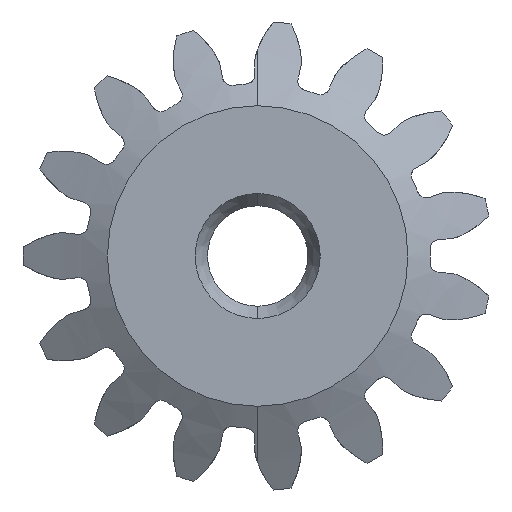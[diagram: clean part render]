
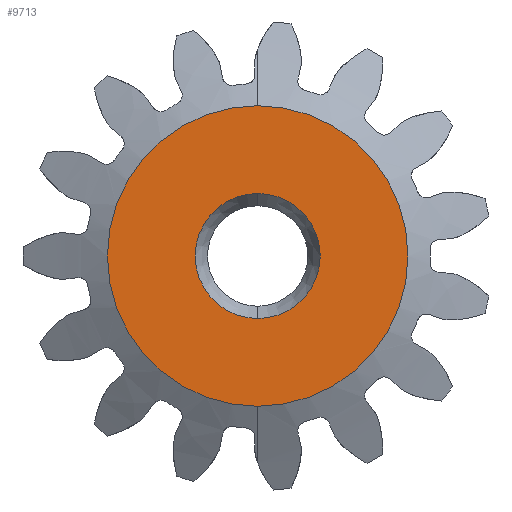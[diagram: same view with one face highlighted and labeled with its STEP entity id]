
A CAD part, front view. The second image highlights one B-rep face of the part: STEP entity #9713.
In plain terms, the highlighted planar face has unit normal (0, -1, 0).
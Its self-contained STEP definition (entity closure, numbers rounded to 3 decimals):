
#696 = AXIS2_PLACEMENT_3D ( 'NONE', #2673, #10916, #10863 ) ;
#2113 = VERTEX_POINT ( 'NONE', #6601 ) ;
#2120 = DIRECTION ( 'NONE',  ( 0., 0., 1. ) ) ;
#2391 = ORIENTED_EDGE ( 'NONE', *, *, #6078, .F. ) ;
#2673 = CARTESIAN_POINT ( 'NONE',  ( 0., -5., 0. ) ) ;
#2796 = ORIENTED_EDGE ( 'NONE', *, *, #12946, .F. ) ;
#3295 = DIRECTION ( 'NONE',  ( 0., 1., 0. ) ) ;
#3311 = CARTESIAN_POINT ( 'NONE',  ( 0., -5., 0. ) ) ;
#4159 = VERTEX_POINT ( 'NONE', #8072 ) ;
#4343 = EDGE_CURVE ( 'NONE', #2113, #9699, #14558, .T. ) ;
#4554 = EDGE_LOOP ( 'NONE', ( #14329, #9013 ) ) ;
#5028 = CIRCLE ( 'NONE', #696, 1.22 ) ;
#5233 = CARTESIAN_POINT ( 'NONE',  ( 0., -5., 0. ) ) ;
#5317 = FACE_BOUND ( 'NONE', #4554, .T. ) ;
#5349 = VERTEX_POINT ( 'NONE', #7984 ) ;
#6078 = EDGE_CURVE ( 'NONE', #4159, #5349, #5028, .T. ) ;
#6300 = DIRECTION ( 'NONE',  ( 0., 1., 0. ) ) ;
#6601 = CARTESIAN_POINT ( 'NONE',  ( 0., -5., -0.508 ) ) ;
#6687 = PLANE ( 'NONE',  #13578 ) ;
#7984 = CARTESIAN_POINT ( 'NONE',  ( 0., -5., -1.22 ) ) ;
#8072 = CARTESIAN_POINT ( 'NONE',  ( 0., -5., 1.22 ) ) ;
#8085 = DIRECTION ( 'NONE',  ( 0., 0., 1. ) ) ;
#8138 = DIRECTION ( 'NONE',  ( 0., 1., 0. ) ) ;
#9013 = ORIENTED_EDGE ( 'NONE', *, *, #13075, .T. ) ;
#9699 = VERTEX_POINT ( 'NONE', #10074 ) ;
#9713 = ADVANCED_FACE ( 'NONE', ( #5317, #12417 ), #6687, .F. ) ;
#9802 = DIRECTION ( 'NONE',  ( 0., 0., 1. ) ) ;
#10023 = DIRECTION ( 'NONE',  ( 0., 1., 0. ) ) ;
#10031 = CIRCLE ( 'NONE', #12884, 0.508 ) ;
#10074 = CARTESIAN_POINT ( 'NONE',  ( 0., -5., 0.508 ) ) ;
#10213 = CIRCLE ( 'NONE', #11248, 1.22 ) ;
#10863 = DIRECTION ( 'NONE',  ( 0., 0., 1. ) ) ;
#10916 = DIRECTION ( 'NONE',  ( 0., 1., 0. ) ) ;
#11248 = AXIS2_PLACEMENT_3D ( 'NONE', #5233, #6300, #9802 ) ;
#12384 = CARTESIAN_POINT ( 'NONE',  ( 0., -5., 0. ) ) ;
#12417 = FACE_OUTER_BOUND ( 'NONE', #14709, .T. ) ;
#12744 = CARTESIAN_POINT ( 'NONE',  ( 0., -5., 0. ) ) ;
#12884 = AXIS2_PLACEMENT_3D ( 'NONE', #3311, #8138, #8085 ) ;
#12946 = EDGE_CURVE ( 'NONE', #5349, #4159, #10213, .T. ) ;
#13075 = EDGE_CURVE ( 'NONE', #9699, #2113, #10031, .T. ) ;
#13578 = AXIS2_PLACEMENT_3D ( 'NONE', #12744, #3295, #2120 ) ;
#13733 = DIRECTION ( 'NONE',  ( 0., 0., 1. ) ) ;
#14329 = ORIENTED_EDGE ( 'NONE', *, *, #4343, .T. ) ;
#14358 = AXIS2_PLACEMENT_3D ( 'NONE', #12384, #10023, #13733 ) ;
#14558 = CIRCLE ( 'NONE', #14358, 0.508 ) ;
#14709 = EDGE_LOOP ( 'NONE', ( #2391, #2796 ) ) ;
